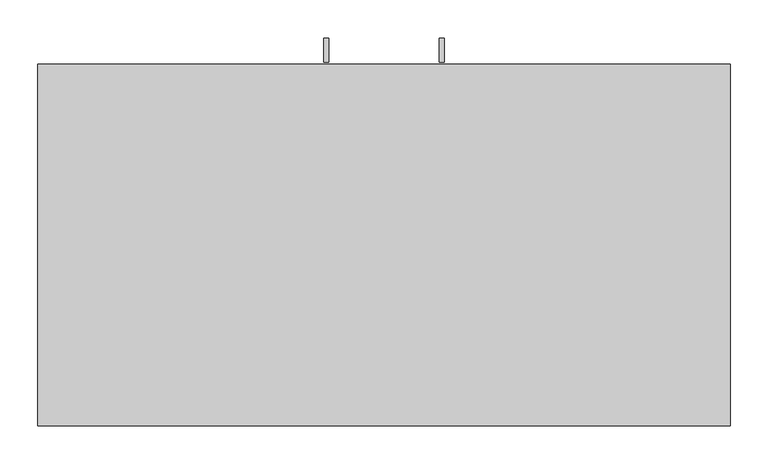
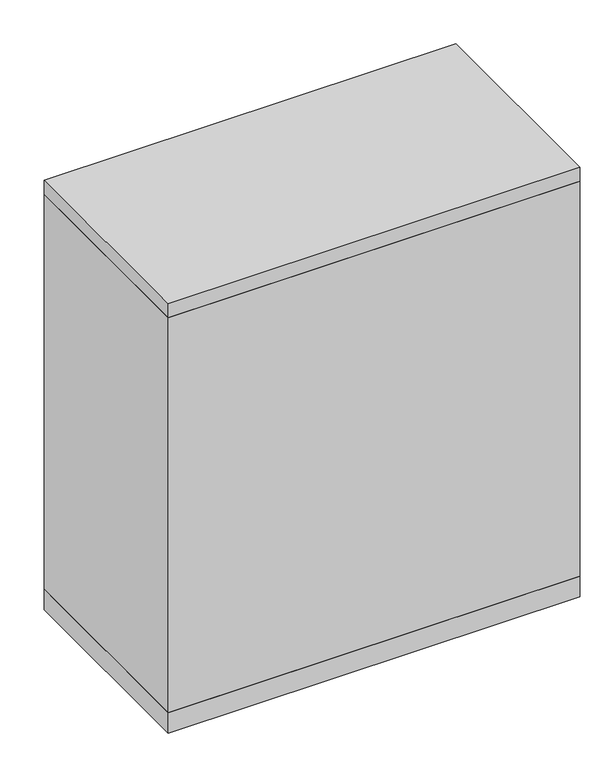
"""IFC4 building model written with IfcOpenShell, lengths in millimetres: furniture geometry, Haworth_XSeries_StorageCabinet : 18d 36w 39h."""

from ifc_helpers import new_model, si_unit, frame, origin, origin_with_axes, place, context, project, spatial, polyline, outline, extrude, source, transform, mapped, element, save


def furniture_ab9e4107(model_context):
    return source(origin(), model_context, "Body", "SweptSolid", [
        extrude(outline(polyline([(479.425, 585.7875), (479.425, 611.1875), (511.1749879, 611.1875), (511.1749879, 407.9875), (479.425, 407.9875), (479.425, 433.3875), (504.8249758, 433.3875), (504.8249758, 585.7875), (479.425, 585.7875)])), frame((-79.3749879, 0.0, 0.0), z_axis=(1.0, 0.0, 0.0), x_axis=(0.0, 1.0, 0.0)), (0.0, 0.0, 1.0), 6.3499758),
        extrude(outline(polyline([(-436.5625, 476.25), (0.0, 476.25), (0.0, 457.2), (-436.5625, 457.2), (-436.5625, 476.25)])), frame((0.0, 0.0, 47.625), z_axis=(0.0, 0.0, 1.0), x_axis=(1.0, 0.0, 0.0)), (0.0, 0.0, 1.0), 923.925),
        extrude(outline(polyline([(479.425, 585.7875), (479.425, 611.1875), (511.1749879, 611.1875), (511.1749879, 407.9875), (479.425, 407.9875), (479.425, 433.3875), (504.8249758, 433.3875), (504.8249758, 585.7875), (479.425, 585.7875)])), frame((73.0250121, 0.0, 0.0), z_axis=(1.0, 0.0, 0.0), x_axis=(0.0, 1.0, 0.0)), (0.0, 0.0, 1.0), 6.3499758),
        extrude(outline(polyline([(436.5625, 476.25), (436.5625, 457.2), (0.0, 457.2), (0.0, 476.25), (436.5625, 476.25)])), frame((0.0, 0.0, 47.625), z_axis=(0.0, 0.0, 1.0), x_axis=(1.0, 0.0, 0.0)), (0.0, 0.0, 1.0), 923.925),
        extrude(outline(polyline([(436.5625, 19.05), (-436.5625, 19.05), (-436.5625, 457.2), (436.5625, 457.2), (436.5625, 19.05)])), frame((0.0, 0.0, 654.05), z_axis=(0.0, 0.0, 1.0), x_axis=(1.0, 0.0, 0.0)), (0.0, 0.0, 1.0), 19.05),
        extrude(outline(polyline([(436.5625, 19.05), (-436.5625, 19.05), (-436.5625, 457.2), (436.5625, 457.2), (436.5625, 19.05)])), frame((0.0, 0.0, 346.075), z_axis=(0.0, 0.0, 1.0), x_axis=(1.0, 0.0, 0.0)), (0.0, 0.0, 1.0), 19.05),
        extrude(outline(polyline([(455.6125, 0.0), (-455.6125, 0.0), (-455.6125, 476.25), (455.6125, 476.25), (455.6125, 0.0)])), origin_with_axes(), (0.0, 0.0, 1.0), 47.625),
        extrude(outline(polyline([(455.6125, 0.0), (-455.6125, 0.0), (-455.6125, 476.25), (455.6125, 476.25), (455.6125, 0.0)])), frame((0.0, 0.0, 971.55), z_axis=(0.0, 0.0, 1.0), x_axis=(1.0, 0.0, 0.0)), (0.0, 0.0, 1.0), 31.75),
        extrude(outline(polyline([(455.6125, 0.0), (-455.6125, 0.0), (-455.6125, 476.25), (-436.5625, 476.25), (-436.5625, 19.05), (436.5625, 19.05), (436.5625, 476.25), (455.6125, 476.25), (455.6125, 0.0)])), frame((0.0, 0.0, 47.625), z_axis=(0.0, 0.0, 1.0), x_axis=(1.0, 0.0, 0.0)), (0.0, 0.0, 1.0), 923.925),
    ])


if __name__ == "__main__":
    model = new_model("IFC4")
    model_context = context("Model", 3, world=origin())
    ifc_project = project(units=[si_unit("LENGTHUNIT", "METRE", prefix="MILLI")], contexts=[model_context])
    site = spatial("IfcSite", under=ifc_project)
    building = spatial("IfcBuilding", under=site)
    placement = place(None, origin())
    furniture_shape = furniture_ab9e4107(model_context)
    element("IfcFurniture", 1, ObjectType="Haworth_XSeries_StorageCabinet : 18d 36w 39h", at=placement, inside=building, context=model_context, shape_type="MappedRepresentation", body=[
        mapped(furniture_shape, transform((0.0, 0.0, 0.0), x_axis=(1.0, 0.0, 0.0), y_axis=(0.0, 1.0, 0.0), z_axis=(0.0, 0.0, 1.0))),
    ])
    save(model, "model.ifc")
